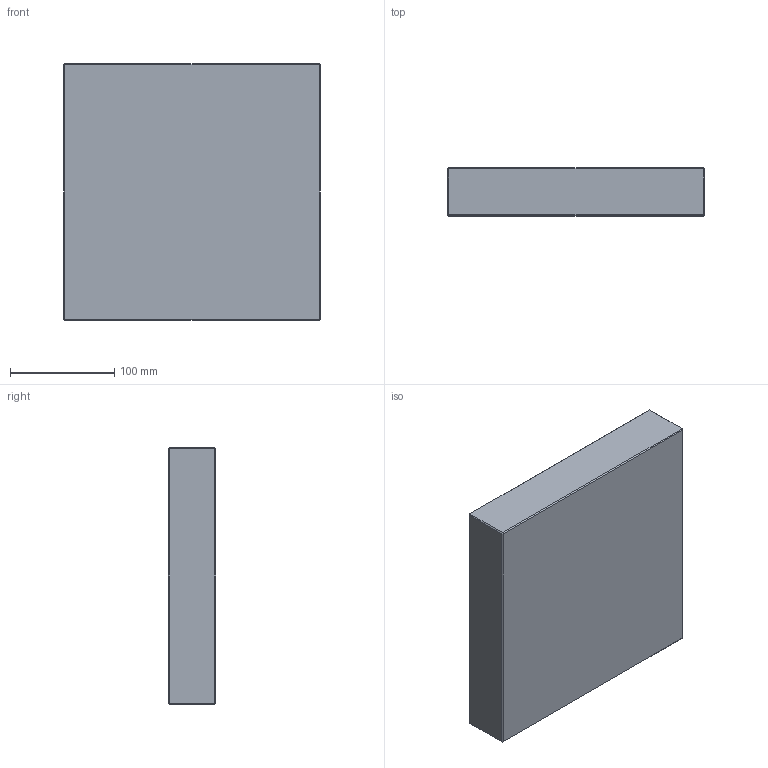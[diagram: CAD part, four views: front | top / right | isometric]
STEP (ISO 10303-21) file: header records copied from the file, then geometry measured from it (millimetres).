
FILE_DESCRIPTION (( 'STEP AP214' ), '1' );
FILE_NAME ('PC-P-246x246x46.STEP', '2020-04-01T08:26:10', ( 'August' ), ( '' ), 'SwSTEP 2.0', 'SolidWorks 2018', '' );
FILE_SCHEMA (( 'AUTOMOTIVE_DESIGN' ));
Length unit declared in the file: millimetre
Products named in the file (1): PC-P-246x246x46
Bounding box: 246 x 46 x 246 mm (x, y, z)
Volume: 2782665.3 mm3; surface area: 165032.4 mm2
Topology: 1 solids, 1 shells, 26 faces, 48 edges, 24 vertices
Faces by surface type: plane 26
Entity records: 634 total; most frequent: DIRECTION 102, CARTESIAN_POINT 99, ORIENTED_EDGE 96, VECTOR 48, EDGE_CURVE 48, LINE 48, AXIS2_PLACEMENT_3D 27, EDGE_LOOP 26
